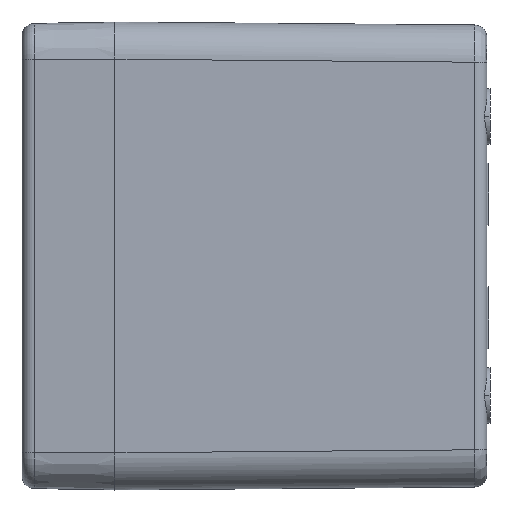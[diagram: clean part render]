
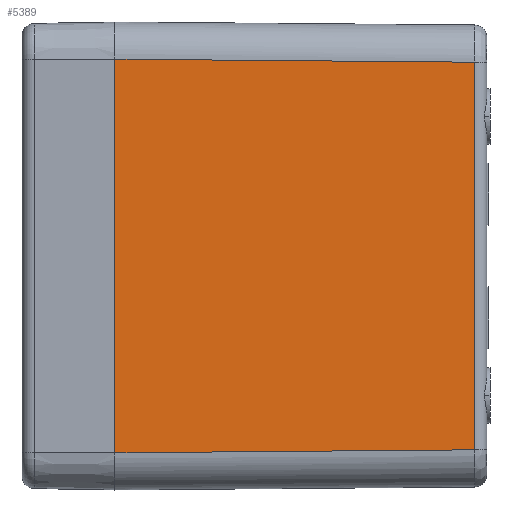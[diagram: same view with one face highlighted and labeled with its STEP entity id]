
A CAD part, left-side view. The second image highlights one B-rep face of the part: STEP entity #5389.
In plain terms, the highlighted planar face has unit normal (-1, -0.008, 0).
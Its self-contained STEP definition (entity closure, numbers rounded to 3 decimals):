
#535=CARTESIAN_POINT('',(-40.25,0.,-31.75));
#587=CARTESIAN_POINT('',(-40.25,0.,31.75));
#600=DIRECTION('',(0.,0.,-1.));
#601=VECTOR('',#600,63.5);
#602=CARTESIAN_POINT('',(-40.25,0.,31.75));
#603=LINE('',#602,#601);
#1631=DIRECTION('',(0.,0.,1.));
#1632=VECTOR('',#1631,62.533);
#1633=CARTESIAN_POINT('',(-39.767,-58.017,
-31.267));
#1634=LINE('',#1633,#1632);
#1690=DIRECTION('',(-0.008,1.,-0.008));
#1691=VECTOR('',#1690,58.021);
#1692=CARTESIAN_POINT('',(-39.767,-58.017,
-31.267));
#1693=LINE('',#1692,#1691);
#1697=DIRECTION('',(-0.008,1.,0.008));
#1698=VECTOR('',#1697,58.021);
#1699=CARTESIAN_POINT('',(-39.767,-58.017,
31.267));
#1700=LINE('',#1699,#1698);
#1704=CARTESIAN_POINT('',(-39.767,-58.017,
-31.267));
#1815=CARTESIAN_POINT('',(-39.767,-58.017,
31.267));
#3421=VERTEX_POINT('',#535);
#3426=VERTEX_POINT('',#587);
#3430=VERTEX_POINT('',#1704);
#3447=VERTEX_POINT('',#1815);
#5376=CARTESIAN_POINT('',(-40.,-30.,0.));
#5377=DIRECTION('',(1.,0.008,0.));
#5378=DIRECTION('',(-0.008,1.,0.));
#5379=AXIS2_PLACEMENT_3D('',#5376,#5377,#5378);
#5380=PLANE('',#5379);
#5381=ORIENTED_EDGE('',*,*,#5315,.F.);
#5383=ORIENTED_EDGE('',*,*,#5382,.T.);
#5384=ORIENTED_EDGE('',*,*,#3881,.F.);
#5386=ORIENTED_EDGE('',*,*,#5385,.F.);
#5387=EDGE_LOOP('',(#5381,#5383,#5384,#5386));
#5388=FACE_OUTER_BOUND('',#5387,.F.);
#3881=EDGE_CURVE('',#3426,#3421,#603,.T.);
#5315=EDGE_CURVE('',#3430,#3447,#1634,.T.);
#5382=EDGE_CURVE('',#3430,#3421,#1693,.T.);
#5385=EDGE_CURVE('',#3447,#3426,#1700,.T.);
#5389=ADVANCED_FACE('',(#5388),#5380,.F.);
